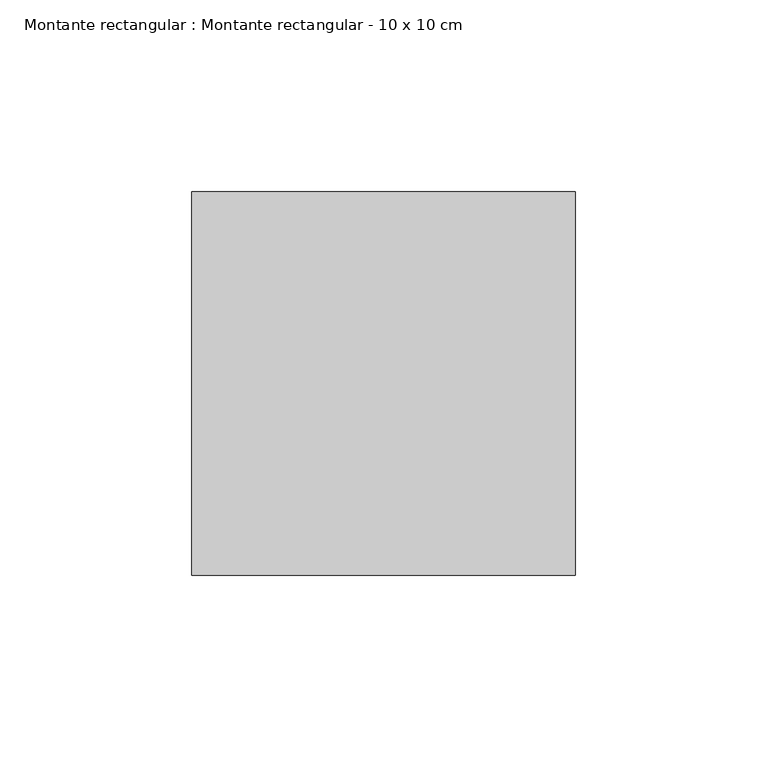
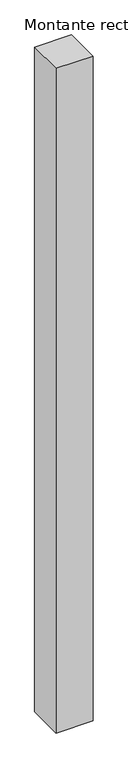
"""IFC4 building model written with IfcOpenShell, lengths in millimetres: member geometry, Montante rectangular : Montante rectangular - 10 x 10 cm."""

from ifc_helpers import new_model, si_unit, frame, origin, place, context, project, spatial, polyline, outline, extrude, source, transform, mapped, element, save


def montante_rectangular_montante_rectangular_10_x_10_cm_8fd7b287(model_context):
    return source(origin(), model_context, "Body", "SweptSolid", [
        extrude(outline(polyline([(0.0, -50.0), (-100.0, -50.0), (-100.0, 50.0), (0.0, 50.0), (0.0, -50.0)])), frame((0.0, 0.0, -1900.0), z_axis=(0.0, 0.0, 1.0), x_axis=(1.0, 0.0, 0.0)), (0.0, 0.0, 1.0), 1900.0),
    ])


if __name__ == "__main__":
    model = new_model("IFC4")
    model_context = context("Model", 3, world=origin())
    ifc_project = project(units=[si_unit("LENGTHUNIT", "METRE", prefix="MILLI")], contexts=[model_context])
    site = spatial("IfcSite", under=ifc_project)
    building = spatial("IfcBuilding", under=site)
    placement = place(None, origin())
    montante_rectangular_montante_rectangular_10_x_10_cm_shape = montante_rectangular_montante_rectangular_10_x_10_cm_8fd7b287(model_context)
    element("IfcMember", 1, ObjectType="Montante rectangular : Montante rectangular - 10 x 10 cm", at=placement, inside=building, context=model_context, shape_type="MappedRepresentation", body=[
        mapped(montante_rectangular_montante_rectangular_10_x_10_cm_shape, transform((0.0, 0.0, 0.0), x_axis=(1.0, 0.0, 0.0), y_axis=(0.0, 1.0, 0.0), z_axis=(0.0, 0.0, 1.0))),
    ])
    save(model, "model.ifc")
